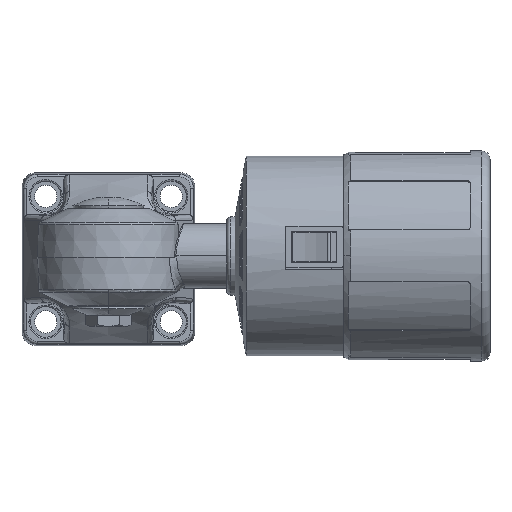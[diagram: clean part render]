
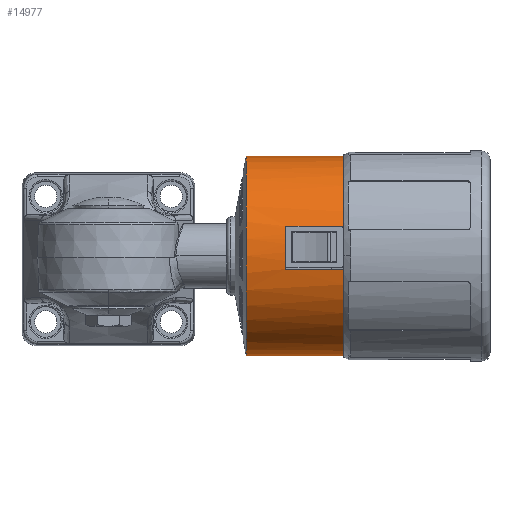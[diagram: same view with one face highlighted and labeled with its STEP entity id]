
A CAD part, top view. The second image highlights one B-rep face of the part: STEP entity #14977.
In plain terms, the highlighted cylindrical face has radius 35.75 mm (diameter 71.5 mm), a partial arc.
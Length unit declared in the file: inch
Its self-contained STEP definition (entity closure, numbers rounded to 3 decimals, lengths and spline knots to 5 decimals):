
#261=CARTESIAN_POINT('',(3.16545,1.25994,1.77165));
#262=DIRECTION('',(1.,0.,0.));
#263=DIRECTION('',(0.,1.,0.));
#264=AXIS2_PLACEMENT_3D('',#261,#262,#263);
#1275=CARTESIAN_POINT('',(4.54341,1.25994,1.77165));
#1276=DIRECTION('',(-1.,0.,0.));
#1277=DIRECTION('',(0.,0.298,0.955));
#1278=AXIS2_PLACEMENT_3D('',#1275,#1276,#1277);
#1285=CARTESIAN_POINT('',(4.54341,1.25994,1.77165));
#1286=DIRECTION('',(-1.,0.,0.));
#1287=DIRECTION('',(0.,-1.,0.));
#1288=AXIS2_PLACEMENT_3D('',#1285,#1286,#1287);
#2572=CARTESIAN_POINT('',(3.7127,1.25994,1.77165));
#2573=DIRECTION('',(-1.,0.,0.));
#2574=DIRECTION('',(0.,-0.133,0.991));
#2575=AXIS2_PLACEMENT_3D('',#2572,#2573,#2574);
#2633=CARTESIAN_POINT('',(3.7127,1.25994,1.77165));
#2634=DIRECTION('',(-1.,0.,0.));
#2635=DIRECTION('',(0.,0.119,0.993));
#2636=AXIS2_PLACEMENT_3D('',#2633,#2634,#2635);
#2638=DIRECTION('',(-1.,0.,0.));
#2639=VECTOR('',#2638,0.74803);
#2640=CARTESIAN_POINT('',(4.5001,1.67923,3.11523));
#2641=LINE('',#2640,#2639);
#2642=DIRECTION('',(-1.,0.,0.));
#2643=VECTOR('',#2642,0.03937);
#2644=CARTESIAN_POINT('',(3.75207,1.67923,3.11523));
#2645=LINE('',#2644,#2643);
#2646=DIRECTION('',(1.,0.,0.));
#2647=VECTOR('',#2646,0.83071);
#2648=CARTESIAN_POINT('',(3.7127,1.07293,3.16665));
#2649=LINE('',#2648,#2647);
#2650=DIRECTION('',(-1.,0.,0.));
#2651=VECTOR('',#2650,1.37795);
#2652=CARTESIAN_POINT('',(4.54341,-0.14754,
1.77165));
#2653=LINE('',#2652,#2651);
#2654=DIRECTION('',(1.,0.,0.));
#2655=VECTOR('',#2654,1.37795);
#2656=CARTESIAN_POINT('',(3.16545,2.66742,1.77165));
#2657=LINE('',#2656,#2655);
#2658=DIRECTION('',(-1.,0.,0.));
#2659=VECTOR('',#2658,0.04331);
#2660=CARTESIAN_POINT('',(4.54341,1.67923,3.11523));
#2661=LINE('',#2660,#2659);
#2745=CARTESIAN_POINT('',(3.7127,1.25994,1.77165));
#2746=DIRECTION('',(-1.,0.,0.));
#2747=DIRECTION('',(0.,0.27,0.963));
#2748=AXIS2_PLACEMENT_3D('',#2745,#2746,#2747);
#11251=CARTESIAN_POINT('',(3.16545,2.66742,1.77165));
#11252=VERTEX_POINT('',#11251);
#11253=CARTESIAN_POINT('',(3.16545,-0.14754,
1.77165));
#11254=VERTEX_POINT('',#11253);
#11586=CARTESIAN_POINT('',(4.54341,1.67923,3.11523));
#11588=VERTEX_POINT('',#11586);
#11590=CARTESIAN_POINT('',(4.54341,2.66742,1.77165));
#11591=VERTEX_POINT('',#11590);
#11592=CARTESIAN_POINT('',(4.54341,-0.14754,
1.77165));
#11593=VERTEX_POINT('',#11592);
#11594=CARTESIAN_POINT('',(4.54341,1.07293,3.16665));
#11595=VERTEX_POINT('',#11594);
#11616=CARTESIAN_POINT('',(4.5001,1.67923,3.11523));
#11617=VERTEX_POINT('',#11616);
#11626=CARTESIAN_POINT('',(3.7127,1.42742,3.16913));
#11627=VERTEX_POINT('',#11626);
#11628=CARTESIAN_POINT('',(3.7127,1.07293,3.16665));
#11629=VERTEX_POINT('',#11628);
#11630=CARTESIAN_POINT('',(3.7127,1.63986,3.12689));
#11631=VERTEX_POINT('',#11630);
#11632=CARTESIAN_POINT('',(3.7127,1.67923,3.11523));
#11633=VERTEX_POINT('',#11632);
#11679=CARTESIAN_POINT('',(3.75207,1.67923,3.11523));
#11680=VERTEX_POINT('',#11679);
#14953=CARTESIAN_POINT('',(4.57097,1.25994,1.77165));
#14954=DIRECTION('',(-1.,0.,0.));
#14955=DIRECTION('',(0.,1.,0.));
#14956=AXIS2_PLACEMENT_3D('',#14953,#14954,#14955);
#14957=CYLINDRICAL_SURFACE('',#14956,1.40748);
#14959=ORIENTED_EDGE('',*,*,#14958,.T.);
#14961=ORIENTED_EDGE('',*,*,#14960,.T.);
#14963=ORIENTED_EDGE('',*,*,#14962,.F.);
#14964=ORIENTED_EDGE('',*,*,#14945,.F.);
#14965=ORIENTED_EDGE('',*,*,#14902,.F.);
#14967=ORIENTED_EDGE('',*,*,#14966,.T.);
#14968=ORIENTED_EDGE('',*,*,#13334,.F.);
#14969=ORIENTED_EDGE('',*,*,#13307,.T.);
#14970=ORIENTED_EDGE('',*,*,#12462,.F.);
#14971=ORIENTED_EDGE('',*,*,#13304,.T.);
#14972=ORIENTED_EDGE('',*,*,#13331,.F.);
#14974=ORIENTED_EDGE('',*,*,#14973,.T.);
#14975=EDGE_LOOP('',(#14959,#14961,#14963,#14964,#14965,#14967,#14968,#14969,
#14970,#14971,#14972,#14974));
#14976=FACE_OUTER_BOUND('',#14975,.F.);
#14977=ADVANCED_FACE('',(#14976),#14957,.T.);
#265=CIRCLE('',#264,1.40748);
#1279=CIRCLE('',#1278,1.40748);
#1289=CIRCLE('',#1288,1.40748);
#2576=CIRCLE('',#2575,1.40748);
#2637=CIRCLE('',#2636,1.40748);
#2749=CIRCLE('',#2748,1.40748);
#12462=EDGE_CURVE('',#11252,#11254,#265,.T.);
#13304=EDGE_CURVE('',#11252,#11591,#2657,.T.);
#13307=EDGE_CURVE('',#11593,#11254,#2653,.T.);
#13331=EDGE_CURVE('',#11588,#11591,#1279,.T.);
#13334=EDGE_CURVE('',#11593,#11595,#1289,.T.);
#14902=EDGE_CURVE('',#11629,#11627,#2576,.T.);
#14945=EDGE_CURVE('',#11627,#11631,#2637,.T.);
#14958=EDGE_CURVE('',#11617,#11680,#2641,.T.);
#14960=EDGE_CURVE('',#11680,#11633,#2645,.T.);
#14962=EDGE_CURVE('',#11631,#11633,#2749,.T.);
#14966=EDGE_CURVE('',#11629,#11595,#2649,.T.);
#14973=EDGE_CURVE('',#11588,#11617,#2661,.T.);
